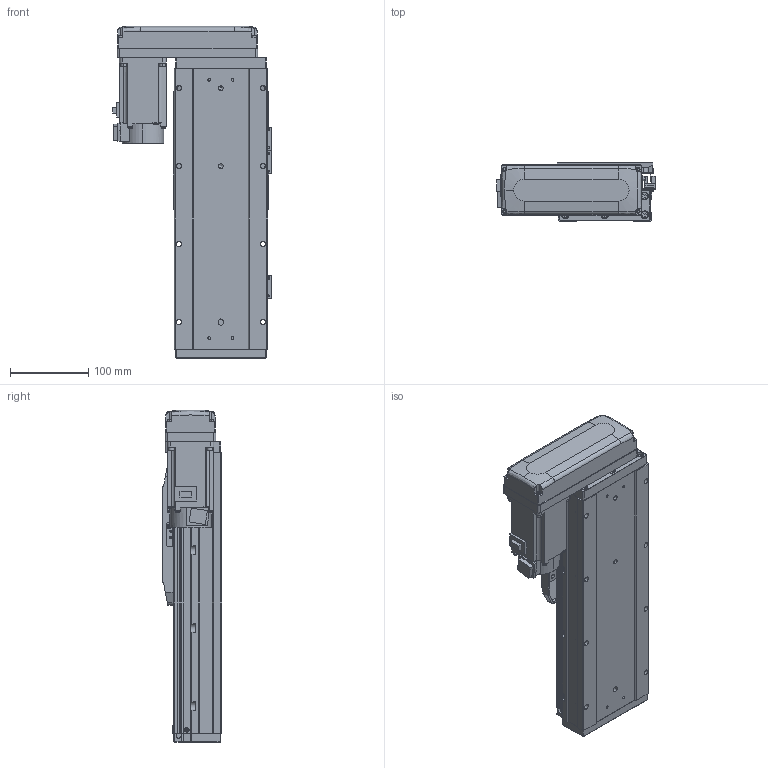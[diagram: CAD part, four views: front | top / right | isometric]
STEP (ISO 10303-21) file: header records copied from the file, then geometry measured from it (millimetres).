
FILE_DESCRIPTION (( 'STEP AP203' ), '1' );
FILE_NAME ('GTH12-150-BR-M40-C4.step', '2023-07-05T00:05:12', ( '微软用户' ), ( '微软中国' ), 'SwSTEP 2.0', 'SolidWorks 2020', '' );
FILE_SCHEMA (( 'CONFIG_CONTROL_DESIGN' ));
Length unit declared in the file: millimetre
Products named in the file (18): GTH120-027-1_GTH120-027-2; GTH120-004; GTH50-023; GTH12-150-BR-M40-C4; GTH120-013; GTH50-024; GBT 70.1-M3℅6; GBT96.1-2002 3×0.8; GBT 70.1-M5×16; BTH-M3X5X6; GTH120-001_150; GBT 70.3-M3℅8; hg-kn43j_-s100_; GTH120-003; GTH80-022; CTHA86-033_M40B; GTH120-006; GTH80-028
Assembly tree (59 placements, depth 2):
  GTH12-150-BR-M40-C4
    GTH120-001_150
    GTH120-003
    GTH120-006
    GTH120-004
    GTH120-013
    GBT 70.1-M3℅6  x14
    GBT 70.1-M5×16  x10
    GBT 70.3-M3℅8  x4
    GTH80-022
    GTH80-028  x2
    GTH50-023  x3
    GTH50-024  x3
    GBT96.1-2002 3×0.8  x6
    BTH-M3X5X6  x8
    hg-kn43j_-s100_
    CTHA86-033_M40B
    GTH120-027-1_GTH120-027-2
Bounding box: 203.5 x 76 x 425.5 mm (x, y, z)
Volume: 3628741.7 mm3; surface area: 425189.4 mm2
Topology: 61 solids, 61 shells, 2336 faces, 5411 edges, 3317 vertices
Faces by surface type: plane 1222, cylinder 654, cone 272, torus 174, sphere 8, bspline 6
Entity records: 42229 total; most frequent: CARTESIAN_POINT 7150, DIRECTION 6939, ORIENTED_EDGE 6432, EDGE_CURVE 3216, AXIS2_PLACEMENT_3D 2427, VECTOR 2085, LINE 2085, VERTEX_POINT 2038
